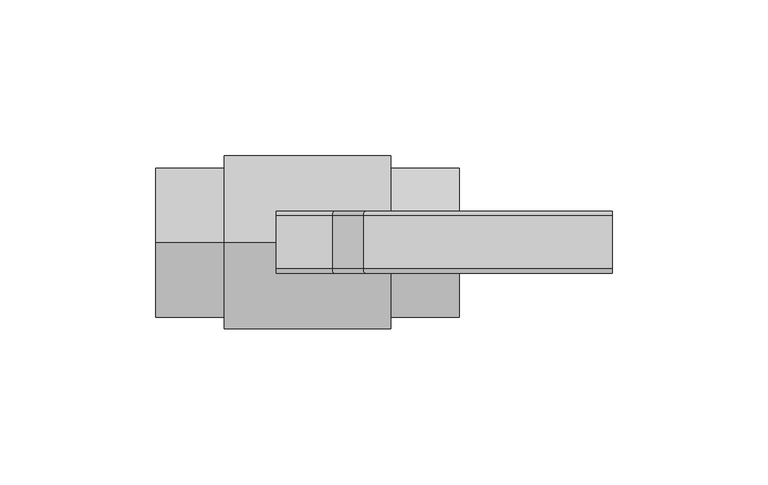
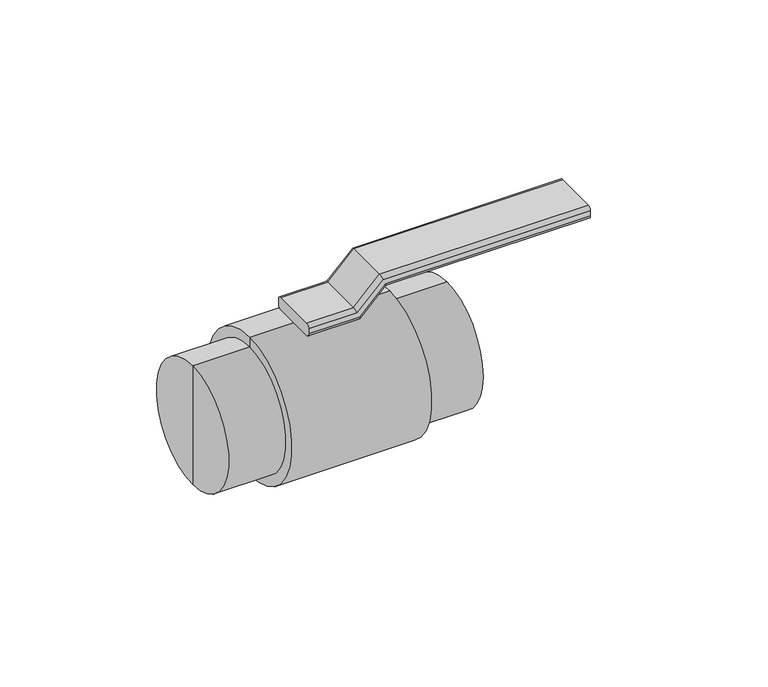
"""IFC4 building model written with IfcOpenShell, lengths in millimetres: valve geometry, NIRON RED valvula de paso esfera : Estándar."""

from ifc_helpers import new_model, si_unit, frame, origin, place, context, project, spatial, circle_curve, ellipse_curve, source, transform, mapped, element, save
from ifc_brep_helpers import plane_surface, cylinder_surface, advanced_brep


def valve_7ae00542(model_context):
    return source(origin(), model_context, "Body", "AdvancedBrep", [
        advanced_brep(
        [(-10.0, 8.4844945, 28.0), (-10.0, -8.5, 28.0), (-10.0, -10.0, 29.5), (-10.0, -10.0, 31.5), (-10.0, -8.5, 33.0), (-10.0, 8.5, 33.0), (-10.0, 10.0, 31.5), (-10.0, 10.0, 29.5155055), (10.0, 8.4844945, 28.0), (10.0, -8.5, 28.0), (9.3786797, -10.0, 29.5), (19.3786797, -10.0, 39.5), (98.0, -10.0, 39.5), (98.0, -10.0, 41.5), (18.5502525, -10.0, 41.5), (8.5502525, -10.0, 31.5), (7.9289322, -8.5, 33.0), (7.9289322, 8.5, 33.0), (8.5502525, 10.0, 31.5), (18.5502525, 10.0, 41.5), (98.0, 10.0, 41.5), (98.0, 10.0, 39.5155055), (19.3722571, 10.0, 39.5155055), (9.3722571, 10.0, 29.5155055), (20.0, 8.4844945, 38.0), (20.0, -8.5, 38.0), (17.9289322, -8.5, 43.0), (17.9289322, 8.5, 43.0), (98.0, 8.4844945, 38.0), (98.0, 8.5, 43.0), (98.0, -8.5, 43.0), (98.0, -8.5, 38.0)],
        [
            (0, 1),
            (1, 2, circle_curve(frame((-10.0, -8.5, 29.5), z_axis=(-1.0, 0.0, 0.0), x_axis=(0.0, 0.0, 1.0)), 1.5)),
            (2, 3),
            (3, 4, circle_curve(frame((-10.0, -8.5, 31.5), z_axis=(-1.0, 0.0, 0.0), x_axis=(0.0, 0.0, 1.0)), 1.5)),
            (4, 5),
            (5, 6, circle_curve(frame((-10.0, 8.5, 31.5), z_axis=(-1.0, 0.0, 0.0), x_axis=(0.0, 0.0, 1.0)), 1.5)),
            (6, 7),
            (7, 0, circle_curve(frame((-10.0, 8.4844945, 29.5155055), z_axis=(-1.0, 0.0, 0.0), x_axis=(0.0, 0.0, 1.0)), 1.5155055)),
            (0, 8),
            (8, 9),
            (9, 1),
            (9, 10, ellipse_curve(frame((9.3786797, -8.5, 29.5), z_axis=(-0.9238795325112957, 0.0, -0.3826834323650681), x_axis=(-0.382683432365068, 0.0, 0.9238795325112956)), 1.6235883, 1.5)),
            (10, 2),
            (10, 11),
            (11, 12),
            (12, 13),
            (13, 14),
            (14, 15),
            (15, 3),
            (15, 16, ellipse_curve(frame((8.5502525, -8.5, 31.5), z_axis=(-0.9238795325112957, 0.0, -0.3826834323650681), x_axis=(-0.382683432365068, 0.0, 0.9238795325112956)), 1.6235883, 1.5)),
            (16, 4),
            (16, 17),
            (17, 5),
            (17, 18, ellipse_curve(frame((8.5502525, 8.5, 31.5), z_axis=(-0.9238795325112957, 0.0, -0.3826834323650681), x_axis=(-0.382683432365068, 0.0, 0.9238795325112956)), 1.6235883, 1.5)),
            (18, 6),
            (18, 19),
            (19, 20),
            (20, 21),
            (21, 22),
            (22, 23),
            (23, 7),
            (23, 8, ellipse_curve(frame((9.3722571, 8.4844945, 29.5155055), z_axis=(-0.9238795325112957, 0.0, -0.3826834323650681), x_axis=(-0.382683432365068, 0.0, 0.9238795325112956)), 1.6403713, 1.5155055)),
            (8, 24),
            (24, 25),
            (25, 9),
            (25, 11, ellipse_curve(frame((19.3786797, -8.5, 39.5), z_axis=(-0.9238795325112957, 0.0, -0.38268343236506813), x_axis=(0.3826834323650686, 0.0, -0.9238795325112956)), 1.6235883, 1.5)),
            (14, 26, ellipse_curve(frame((18.5502525, -8.5, 41.5), z_axis=(-0.9238795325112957, 0.0, -0.38268343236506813), x_axis=(0.3826834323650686, 0.0, -0.9238795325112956)), 1.6235883, 1.5)),
            (26, 16),
            (26, 27),
            (27, 17),
            (27, 19, ellipse_curve(frame((18.5502525, 8.5, 41.5), z_axis=(-0.9238795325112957, 0.0, -0.38268343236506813), x_axis=(0.3826834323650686, 0.0, -0.9238795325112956)), 1.6235883, 1.5)),
            (22, 24, ellipse_curve(frame((19.3722571, 8.4844945, 39.5155055), z_axis=(-0.9238795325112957, 0.0, -0.38268343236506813), x_axis=(0.3826834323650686, 0.0, -0.9238795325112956)), 1.6403713, 1.5155055)),
            (28, 21, circle_curve(frame((98.0, 8.4844945, 39.5155055), z_axis=(1.0, 0.0, 0.0), x_axis=(0.0, 0.0, 1.0)), 1.5155055)),
            (20, 29, circle_curve(frame((98.0, 8.5, 41.5), z_axis=(1.0, 0.0, 0.0), x_axis=(0.0, 0.0, 1.0)), 1.5)),
            (29, 30),
            (30, 13, circle_curve(frame((98.0, -8.5, 41.5), z_axis=(1.0, 0.0, 0.0), x_axis=(0.0, 0.0, 1.0)), 1.5)),
            (12, 31, circle_curve(frame((98.0, -8.5, 39.5), z_axis=(1.0, 0.0, 0.0), x_axis=(0.0, 0.0, 1.0)), 1.5)),
            (31, 28),
            (24, 28),
            (31, 25),
            (30, 26),
            (29, 27),
        ],
        [
            plane_surface(frame((-10.0, 0.0, 28.0), z_axis=(-1.0, 0.0, 0.0), x_axis=(0.0, -1.0, 0.0))),
            plane_surface(frame((-10.0, 8.4844945, 28.0), z_axis=(0.0, 0.0, -1.0), x_axis=(1.0, 0.0, 0.0))),
            cylinder_surface(frame((-10.0, -8.5, 29.5), z_axis=(-1.0, 0.0, 0.0), x_axis=(0.0, 0.0, 1.0)), 1.5),
            plane_surface(frame((-10.0, -10.0, 29.5), z_axis=(0.0, -1.0, 0.0), x_axis=(1.0, 0.0, 0.0))),
            cylinder_surface(frame((-10.0, -8.5, 31.5), z_axis=(-1.0, 0.0, 0.0), x_axis=(0.0, 0.0, 1.0)), 1.5),
            plane_surface(frame((-10.0, -8.5, 33.0), z_axis=(0.0, 0.0, 1.0), x_axis=(1.0, 0.0, 0.0))),
            cylinder_surface(frame((-10.0, 8.5, 31.5), z_axis=(-1.0, 0.0, 0.0), x_axis=(0.0, 0.0, 1.0)), 1.5),
            plane_surface(frame((-10.0, 10.0, 31.5), z_axis=(0.0, 1.0, 0.0), x_axis=(1.0, 0.0, 0.0))),
            cylinder_surface(frame((-10.0, 8.4844945, 29.5155055), z_axis=(-1.0, 0.0, 0.0), x_axis=(0.0, 0.0, 1.0)), 1.5155055),
            plane_surface(frame((10.0, 8.4844945, 28.0), z_axis=(0.7071067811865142, 0.0, -0.707106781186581), x_axis=(0.707106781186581, 0.0, 0.7071067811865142))),
            cylinder_surface(frame((8.9393398, -8.5, 29.0606602), z_axis=(-0.7071067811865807, 0.0, -0.7071067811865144), x_axis=(-0.7071067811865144, 0.0, 0.7071067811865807)), 1.5),
            cylinder_surface(frame((7.5251263, -8.5, 30.4748737), z_axis=(-0.7071067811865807, 0.0, -0.7071067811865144), x_axis=(-0.7071067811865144, 0.0, 0.7071067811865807)), 1.5),
            plane_surface(frame((7.9289322, -8.5, 33.0), z_axis=(-0.7071067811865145, 0.0, 0.7071067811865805), x_axis=(0.7071067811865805, 0.0, 0.7071067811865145))),
            cylinder_surface(frame((7.5251263, 8.5, 30.4748737), z_axis=(-0.7071067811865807, 0.0, -0.7071067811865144), x_axis=(-0.7071067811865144, 0.0, 0.7071067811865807)), 1.5),
            cylinder_surface(frame((8.9283758, 8.4844945, 29.0716242), z_axis=(-0.7071067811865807, 0.0, -0.7071067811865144), x_axis=(-0.7071067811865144, 0.0, 0.7071067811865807)), 1.5155055),
            plane_surface(frame((98.0, 0.0, 38.0), z_axis=(1.0, 0.0, 0.0), x_axis=(0.0, -1.0, 0.0))),
            plane_surface(frame((20.0, 8.4844945, 38.0), z_axis=(0.0, 0.0, -1.0), x_axis=(1.0, 0.0, 0.0))),
            cylinder_surface(frame((20.0, -8.5, 39.5), z_axis=(-1.0, 0.0, 0.0), x_axis=(0.0, 0.0, 1.0)), 1.5),
            cylinder_surface(frame((20.0, -8.5, 41.5), z_axis=(-1.0, 0.0, 0.0), x_axis=(0.0, 0.0, 1.0)), 1.5),
            plane_surface(frame((17.9289322, -8.5, 43.0), z_axis=(0.0, 0.0, 1.0), x_axis=(1.0, 0.0, 0.0))),
            cylinder_surface(frame((20.0, 8.5, 41.5), z_axis=(-1.0, 0.0, 0.0), x_axis=(0.0, 0.0, 1.0)), 1.5),
            cylinder_surface(frame((20.0, 8.4844945, 39.5155055), z_axis=(-1.0, 0.0, 0.0), x_axis=(0.0, 0.0, 1.0)), 1.5155055),
        ],
        [
            (0, [[1, 2, 3, 4, 5, 6, 7, 8]]),
            (1, [[-1, 9, 10, 11]]),
            (2, [[-2, -11, 12, 13]]),
            (3, [[-3, -13, 14, 15, 16, 17, 18, 19]]),
            (4, [[-4, -19, 20, 21]]),
            (5, [[-5, -21, 22, 23]]),
            (6, [[-6, -23, 24, 25]]),
            (7, [[-7, -25, 26, 27, 28, 29, 30, 31]]),
            (8, [[-8, -31, 32, -9]]),
            (9, [[-10, 33, 34, 35]]),
            (10, [[-12, -35, 36, -14]]),
            (11, [[-20, -18, 37, 38]]),
            (12, [[-22, -38, 39, 40]]),
            (13, [[-24, -40, 41, -26]]),
            (14, [[-32, -30, 42, -33]]),
            (15, [[43, -28, 44, 45, 46, -16, 47, 48]]),
            (16, [[-34, 49, -48, 50]]),
            (17, [[-36, -50, -47, -15]]),
            (18, [[-37, -17, -46, 51]]),
            (19, [[-39, -51, -45, 52]]),
            (20, [[-41, -52, -44, -27]]),
            (21, [[-42, -29, -43, -49]]),
        ],
    ),
        advanced_brep(
        [(-48.75, 0.0, 0.0), (-48.75, 0.0, 24.0), (-48.75, 0.0, -24.0), (48.75, 0.0, -24.0), (48.75, 0.0, 24.0), (48.75, 0.0, 0.0), (26.75, 0.0, -24.0), (26.75, 0.0, 24.0), (26.75, 0.0, -28.0), (26.75, 0.0, 28.0), (-26.75, 0.0, -28.0), (-26.75, 0.0, 28.0), (-26.75, 0.0, -24.0), (-26.75, 0.0, 24.0)],
        [
            (0, 1),
            (1, 2, circle_curve(frame((-48.75, 0.0, 0.0), z_axis=(-1.0, 0.0, 0.0), x_axis=(0.0, 0.0, 1.0)), 24.0)),
            (2, 0),
            (2, 1, circle_curve(frame((-48.75, 0.0, 0.0), z_axis=(-1.0, 0.0, 0.0), x_axis=(0.0, 0.0, 1.0)), 24.0)),
            (3, 4, circle_curve(frame((48.75, 0.0, 0.0), z_axis=(1.0, 0.0, 0.0), x_axis=(0.0, 0.0, 1.0)), 24.0)),
            (4, 5),
            (5, 3),
            (4, 3, circle_curve(frame((48.75, 0.0, 0.0), z_axis=(1.0, 0.0, 0.0), x_axis=(0.0, 0.0, 1.0)), 24.0)),
            (6, 7, circle_curve(frame((26.75, 0.0, 0.0), z_axis=(1.0, 0.0, 0.0), x_axis=(0.0, 0.0, 1.0)), 24.0)),
            (7, 4),
            (3, 6),
            (7, 6, circle_curve(frame((26.75, 0.0, 0.0), z_axis=(1.0, 0.0, 0.0), x_axis=(0.0, 0.0, 1.0)), 24.0)),
            (8, 9, circle_curve(frame((26.75, 0.0, 0.0), z_axis=(1.0, 0.0, 0.0), x_axis=(0.0, 0.0, 1.0)), 28.0)),
            (9, 7),
            (6, 8),
            (9, 8, circle_curve(frame((26.75, 0.0, 0.0), z_axis=(1.0, 0.0, 0.0), x_axis=(0.0, 0.0, 1.0)), 28.0)),
            (10, 11, circle_curve(frame((-26.75, 0.0, 0.0), z_axis=(1.0, 0.0, 0.0), x_axis=(0.0, 0.0, 1.0)), 28.0)),
            (11, 9),
            (8, 10),
            (11, 10, circle_curve(frame((-26.75, 0.0, 0.0), z_axis=(1.0, 0.0, 0.0), x_axis=(0.0, 0.0, 1.0)), 28.0)),
            (12, 13, circle_curve(frame((-26.75, 0.0, 0.0), z_axis=(1.0, 0.0, 0.0), x_axis=(0.0, 0.0, 1.0)), 24.0)),
            (13, 11),
            (10, 12),
            (13, 12, circle_curve(frame((-26.75, 0.0, 0.0), z_axis=(1.0, 0.0, 0.0), x_axis=(0.0, 0.0, 1.0)), 24.0)),
            (1, 13),
            (12, 2),
        ],
        [
            plane_surface(frame((-48.75, 0.0, 0.0), z_axis=(-1.0, 0.0, 0.0), x_axis=(0.0, 0.0, 1.0))),
            plane_surface(frame((48.75, 0.0, 0.0), z_axis=(1.0, 0.0, 0.0), x_axis=(0.0, 0.0, 1.0))),
            cylinder_surface(frame((-1354.296, 0.0, 0.0), z_axis=(-1.0, 0.0, 0.0), x_axis=(0.0, 0.0, 1.0)), 24.0),
            plane_surface(frame((26.75, 0.0, 0.0), z_axis=(1.0, 0.0, 0.0), x_axis=(0.0, 0.0, 1.0))),
            cylinder_surface(frame((-1354.296, 0.0, 0.0), z_axis=(-1.0, 0.0, 0.0), x_axis=(0.0, 0.0, 1.0)), 28.0),
            plane_surface(frame((-26.75, 0.0, 0.0), z_axis=(-1.0, 0.0, 0.0), x_axis=(0.0, 0.0, 1.0))),
        ],
        [
            (0, [[1, 2, 3]]),
            (0, [[-3, 4, -1]]),
            (1, [[5, 6, 7]]),
            (1, [[8, -7, -6]]),
            (2, [[9, 10, -5, 11]]),
            (2, [[12, -11, -8, -10]]),
            (3, [[13, 14, -9, 15]]),
            (3, [[16, -15, -12, -14]]),
            (4, [[17, 18, -13, 19]]),
            (4, [[20, -19, -16, -18]]),
            (5, [[21, 22, -17, 23]]),
            (5, [[24, -23, -20, -22]]),
            (2, [[-2, 25, -21, 26]]),
            (2, [[-4, -26, -24, -25]]),
        ],
    ),
    ])


if __name__ == "__main__":
    model = new_model("IFC4")
    model_context = context("Model", 3, world=origin())
    ifc_project = project(units=[si_unit("LENGTHUNIT", "METRE", prefix="MILLI")], contexts=[model_context])
    site = spatial("IfcSite", under=ifc_project)
    building = spatial("IfcBuilding", under=site)
    placement = place(None, origin())
    valve_shape = valve_7ae00542(model_context)
    element("IfcValve", 1, ObjectType="NIRON RED valvula de paso esfera : Estándar", at=placement, inside=building, context=model_context, shape_type="MappedRepresentation", body=[
        mapped(valve_shape, transform((0.0, 0.0, 0.0), x_axis=(1.0, 0.0, 0.0), y_axis=(0.0, 1.0, 0.0), z_axis=(0.0, 0.0, 1.0))),
    ])
    save(model, "model.ifc")
